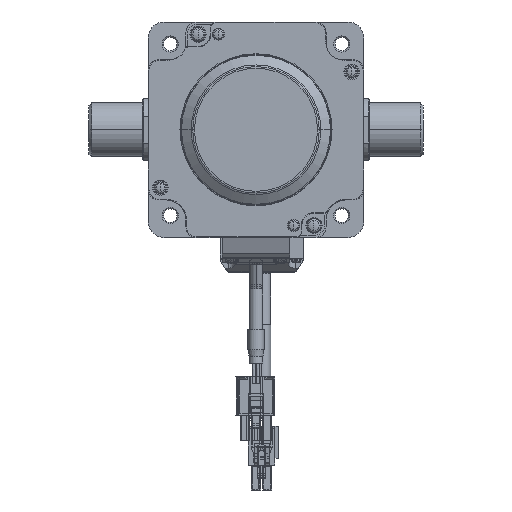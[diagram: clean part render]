
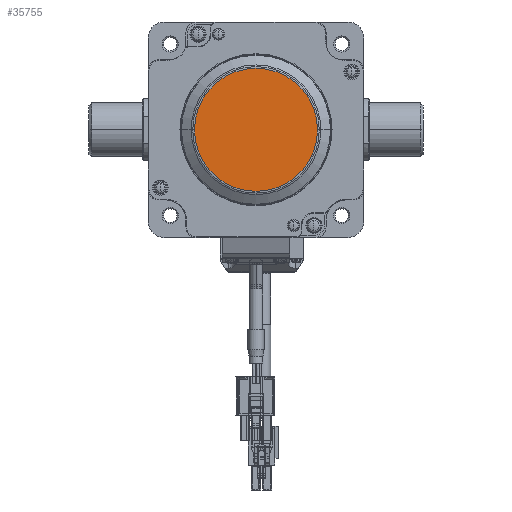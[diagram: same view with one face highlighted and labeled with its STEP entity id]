
A CAD part, front view. The second image highlights one B-rep face of the part: STEP entity #35755.
In plain terms, the highlighted planar face has unit normal (0, -1, 0) as drawn and (-1, 0, 0) by its records, which use the part's own axes.
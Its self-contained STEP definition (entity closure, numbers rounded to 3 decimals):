
#28736=CARTESIAN_POINT('',(-91.9,0.,0.));
#28737=DIRECTION('',(-1.,0.,0.));
#28738=DIRECTION('',(0.,0.,-1.));
#28739=AXIS2_PLACEMENT_3D('',#28736,#28737,#28738);
#28741=CARTESIAN_POINT('',(-91.9,0.,0.));
#28742=DIRECTION('',(-1.,0.,0.));
#28743=DIRECTION('',(0.,0.,1.));
#28744=AXIS2_PLACEMENT_3D('',#28741,#28742,#28743);
#30568=CARTESIAN_POINT('',(-91.9,0.,-22.84));
#30570=VERTEX_POINT('',#30568);
#30574=CARTESIAN_POINT('',(-91.9,0.,22.84));
#30575=VERTEX_POINT('',#30574);
#35745=CARTESIAN_POINT('',(-91.9,-22.,36.));
#35746=DIRECTION('',(1.,0.,0.));
#35747=DIRECTION('',(0.,0.,-1.));
#35748=AXIS2_PLACEMENT_3D('',#35745,#35746,#35747);
#35749=PLANE('',#35748);
#35750=ORIENTED_EDGE('',*,*,#35735,.F.);
#35752=ORIENTED_EDGE('',*,*,#35751,.F.);
#35753=EDGE_LOOP('',(#35750,#35752));
#35754=FACE_OUTER_BOUND('',#35753,.F.);
#35755=ADVANCED_FACE('',(#35754),#35749,.F.);
#28740=CIRCLE('',#28739,22.84);
#28745=CIRCLE('',#28744,22.84);
#35735=EDGE_CURVE('',#30570,#30575,#28740,.T.);
#35751=EDGE_CURVE('',#30575,#30570,#28745,.T.);
